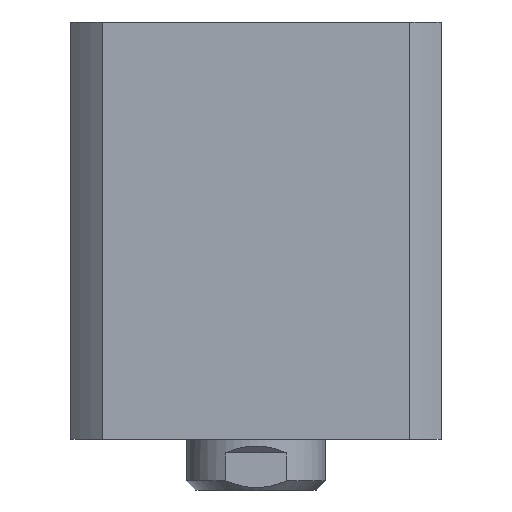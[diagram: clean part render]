
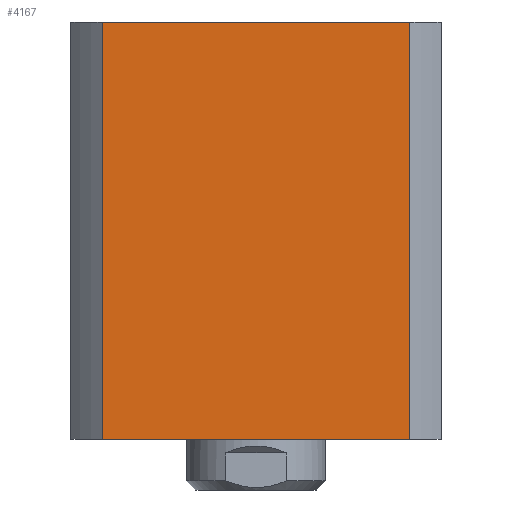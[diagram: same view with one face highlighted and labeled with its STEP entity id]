
A CAD part, left-side view. The second image highlights one B-rep face of the part: STEP entity #4167.
In plain terms, the highlighted planar face has unit normal (-1, 0, 0).
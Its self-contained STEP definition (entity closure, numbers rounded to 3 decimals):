
#28 = ORIENTED_EDGE ( 'NONE', *, *, #11468, .T. ) ;
#451 = CARTESIAN_POINT ( 'NONE',  ( -40., -33.226, 45. ) ) ;
#465 = FACE_OUTER_BOUND ( 'NONE', #8151, .T. ) ;
#672 = CARTESIAN_POINT ( 'NONE',  ( -40., -33.226, -45. ) ) ;
#1403 = VERTEX_POINT ( 'NONE', #13500 ) ;
#1451 = VECTOR ( 'NONE', #6867, 1000. ) ;
#1966 = CARTESIAN_POINT ( 'NONE',  ( -40., 33.226, 45. ) ) ;
#2006 = DIRECTION ( 'NONE',  ( 1., 0., 0. ) ) ;
#3051 = DIRECTION ( 'NONE',  ( 0., 1., 0. ) ) ;
#3359 = AXIS2_PLACEMENT_3D ( 'NONE', #1966, #2006, #3051 ) ;
#3366 = DIRECTION ( 'NONE',  ( 0., 0., -1. ) ) ;
#3388 = ORIENTED_EDGE ( 'NONE', *, *, #10547, .T. ) ;
#3787 = CARTESIAN_POINT ( 'NONE',  ( -40., 33.226, 45. ) ) ;
#3811 = LINE ( 'NONE', #9875, #13118 ) ;
#4149 = VERTEX_POINT ( 'NONE', #8597 ) ;
#4167 = ADVANCED_FACE ( 'NONE', ( #465 ), #8554, .F. ) ;
#4618 = DIRECTION ( 'NONE',  ( 0., -1., 0. ) ) ;
#4794 = VERTEX_POINT ( 'NONE', #9052 ) ;
#4929 = EDGE_CURVE ( 'NONE', #1403, #8809, #12810, .T. ) ;
#6331 = VECTOR ( 'NONE', #3366, 1000. ) ;
#6867 = DIRECTION ( 'NONE',  ( 0., -1., 0. ) ) ;
#7375 = EDGE_CURVE ( 'NONE', #4794, #1403, #10094, .T. ) ;
#7703 = LINE ( 'NONE', #8775, #6331 ) ;
#8040 = DIRECTION ( 'NONE',  ( 0., 0., -1. ) ) ;
#8151 = EDGE_LOOP ( 'NONE', ( #3388, #9163, #11710, #28 ) ) ;
#8554 = PLANE ( 'NONE',  #3359 ) ;
#8597 = CARTESIAN_POINT ( 'NONE',  ( -40., 33.226, -45. ) ) ;
#8775 = CARTESIAN_POINT ( 'NONE',  ( -40., 33.226, 45. ) ) ;
#8809 = VERTEX_POINT ( 'NONE', #672 ) ;
#9052 = CARTESIAN_POINT ( 'NONE',  ( -40., 33.226, 45. ) ) ;
#9163 = ORIENTED_EDGE ( 'NONE', *, *, #4929, .F. ) ;
#9875 = CARTESIAN_POINT ( 'NONE',  ( -40., 33.226, -45. ) ) ;
#9945 = VECTOR ( 'NONE', #8040, 1000. ) ;
#10094 = LINE ( 'NONE', #3787, #1451 ) ;
#10547 = EDGE_CURVE ( 'NONE', #4149, #8809, #3811, .T. ) ;
#11468 = EDGE_CURVE ( 'NONE', #4794, #4149, #7703, .T. ) ;
#11710 = ORIENTED_EDGE ( 'NONE', *, *, #7375, .F. ) ;
#12810 = LINE ( 'NONE', #451, #9945 ) ;
#13118 = VECTOR ( 'NONE', #4618, 1000. ) ;
#13500 = CARTESIAN_POINT ( 'NONE',  ( -40., -33.226, 45. ) ) ;
